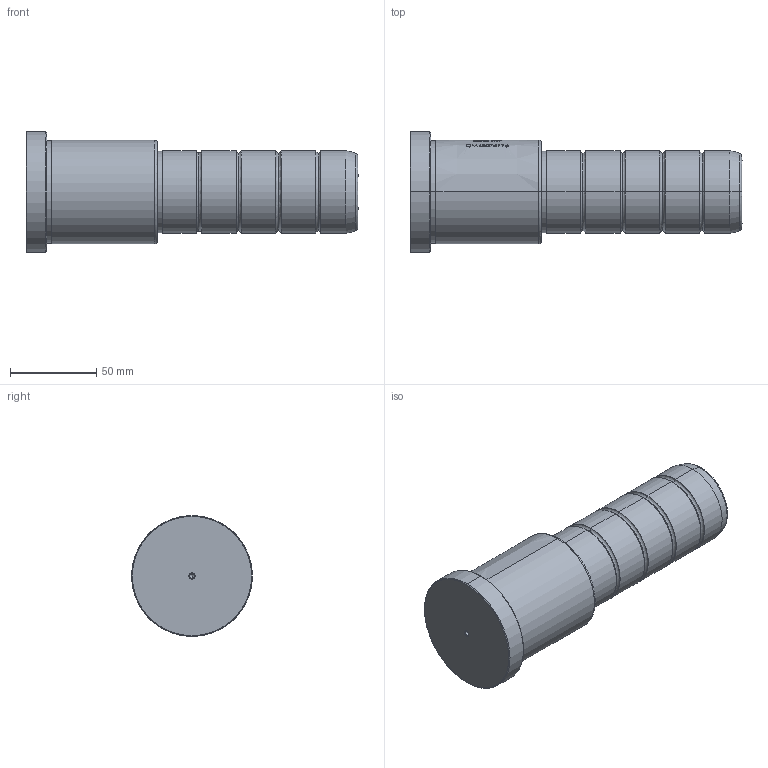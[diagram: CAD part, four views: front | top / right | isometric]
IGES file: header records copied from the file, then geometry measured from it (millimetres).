
Start section: SolidWorks IGES file using analytic representation for surfaces
Global section: file name: D:\TRIVECTOR\2026\08_Agosto\CM - COLUNA PRINCIPAL E31 (CATÁLOGO)\CM48076116.IGS; native system: SolidWorks 2024; preprocessor: SolidWorks 2024; author: Usuario; date: 260901.132729; units: millimetre
Bounding box: 192 x 70 x 70 mm (x, y, z)
Surface area: 40696.2 mm2 (no closed solid volume)
Topology: 0 solids, 0 shells, 476 faces, 5701 edges, 5697 vertices
Faces by surface type: bspline 392, revolution 84
